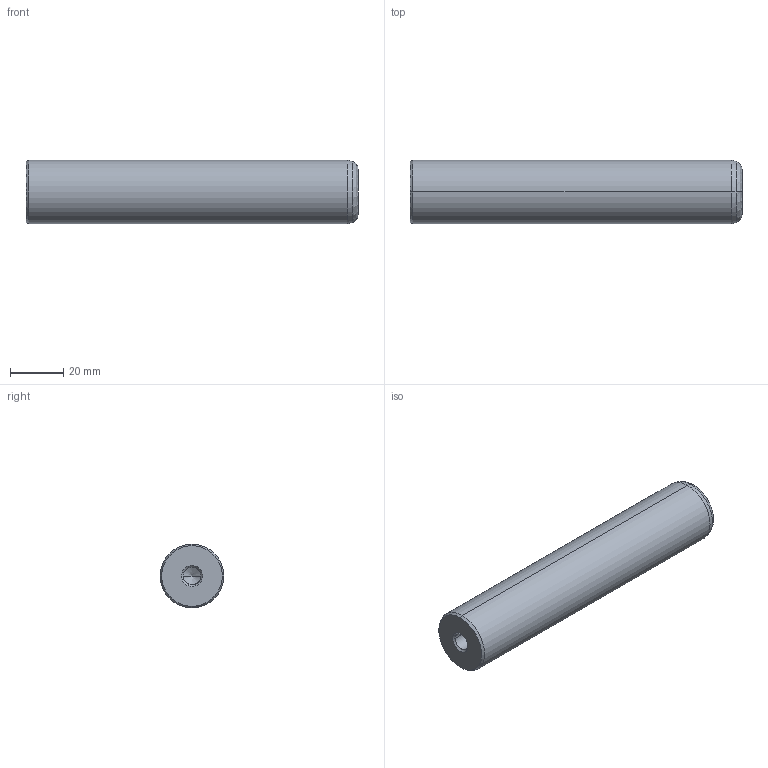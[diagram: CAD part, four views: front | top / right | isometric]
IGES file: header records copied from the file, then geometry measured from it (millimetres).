
Start section: START RECORD GO HERE.
Global section: file name: 720-24x125.igs; native system: DASSAULT SYSTEMES CATIA V5 R20 - www.3ds.com; preprocessor: CATIA Version 5 Release 20 ; author: Utente; organization: NB04-ASUS; date: 20210101.135450; units: millimetre
Bounding box: 125 x 24 x 24 mm (x, y, z)
Surface area: 11164.8 mm2 (no closed solid volume)
Topology: 0 solids, 0 shells, 22 faces, 120 edges, 116 vertices
Faces by surface type: revolution 20, plane 2
